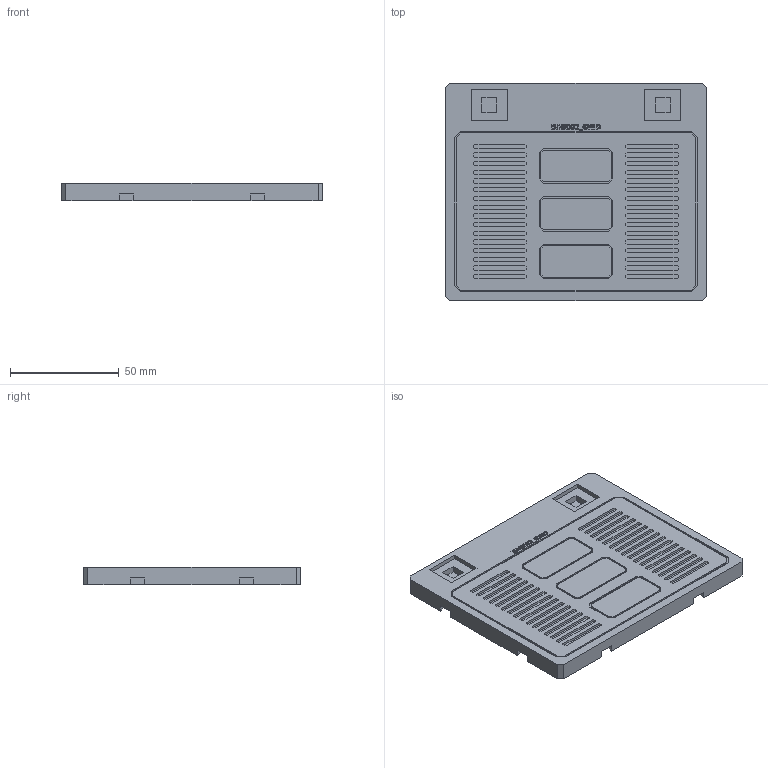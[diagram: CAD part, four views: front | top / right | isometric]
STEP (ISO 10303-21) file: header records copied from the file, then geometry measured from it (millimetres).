
FILE_DESCRIPTION(('Open CASCADE Model'),'2;1');
FILE_NAME('Open CASCADE Shape Model','2026-10-02T13:48:48',('Author'),( 'Open CASCADE'),'Open CASCADE STEP processor 7.8','Open CASCADE 7.8' ,'Unknown');
FILE_SCHEMA(('AUTOMOTIVE_DESIGN { 1 0 10303 214 1 1 1 1 }'));
Length unit declared in the file: millimetre
Products named in the file (1): Open CASCADE STEP translator 7.8 4
Bounding box: 120 x 100 x 8 mm (x, y, z)
Volume: 90380 mm3; surface area: 31140.4 mm2
Topology: 1 solids, 1 shells, 637 faces, 1722 edges, 1148 vertices
Faces by surface type: plane 529, extrusion 108
Entity records: 41356 total; most frequent: CARTESIAN_POINT 8864, DIRECTION 5070, VECTOR 4010, LINE 3902, ORIENTED_EDGE 3444, PCURVE 3444, DEFINITIONAL_REPRESENTATION 3444, EDGE_CURVE 1722
